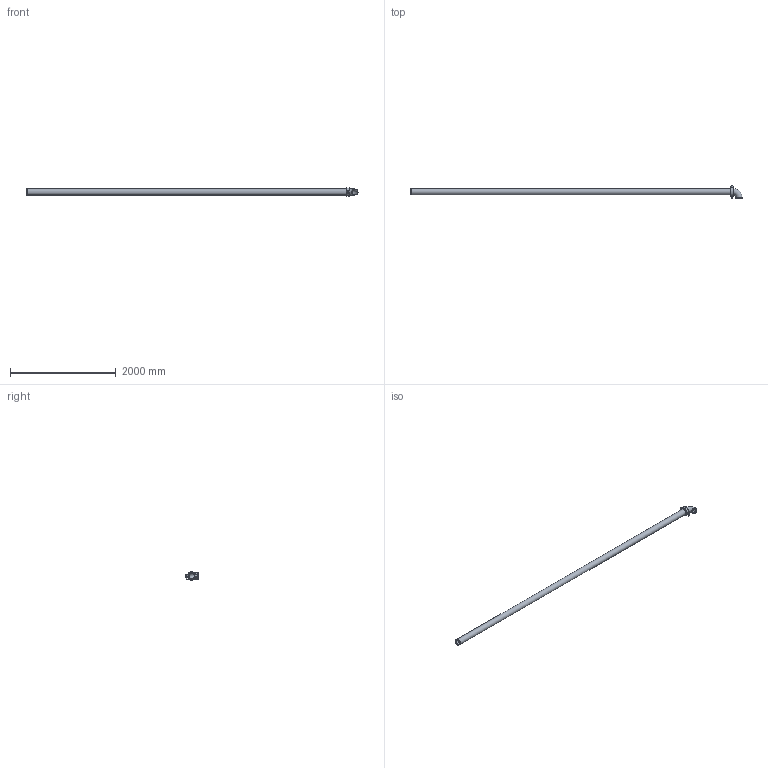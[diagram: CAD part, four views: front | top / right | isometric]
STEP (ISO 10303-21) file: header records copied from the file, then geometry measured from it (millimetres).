
FILE_DESCRIPTION(/* description */ ('VIC LONG RUN FITTING No R20 (OGS)','CAx-IF Rec.Pracs.---Representation and Presentation of Product Manufacturing Information (PMI)---4.0---2014-10-13'),/* implementation_level */ '2;1');
FILE_NAME(/* name */ 'C:\Users\Vjadhav\AppData\Roaming\Autodesk\ApplicationPlugins\Back Up\Victaulic_IPS_Long Run Fittings_No R20 (OGS)\Victaulic_IPS_Long Run Fittings_No R20 (OGS)_4 (100).stp',/* time_stamp */ '2020-10-06T19:45:50+05:00',/* author */ ('Vjadhav'),/* organization */ ('Victaulic'),/* preprocessor_version */ 'ST-DEVELOPER v17.2',/* originating_system */ 'Autodesk Inventor 2019',/* authorisation */ '');
FILE_SCHEMA (('AP242_MANAGED_MODEL_BASED_3D_ENGINEERING_MIM_LF { 1 0 10303 442 1 1 4 }'));
Length unit declared in the file: inch
Products named in the file (4): R20-04.0; 010-04.0; 177N-04.0; Pipe_R10-04.0
Assembly tree (3 placements, depth 2):
  R20-04.0
    010-04.0
    177N-04.0
    Pipe_R10-04.0
Bounding box: 6289.8 x 245.56 x 161.45 mm (x, y, z)
Volume: 13618875.7 mm3; surface area: 4399941 mm2
Topology: 3 solids, 3 shells, 117 faces, 305 edges, 206 vertices
Faces by surface type: plane 68, cylinder 37, torus 6, cone 4, sphere 2
Full cylindrical faces by diameter (mm): 15.875 x2, 23.495 x2, 101.6 x1, 102.26 x3, 110.084 x4, 114.3 x7
Entity records: 4268 total; most frequent: CARTESIAN_POINT 971, DIRECTION 661, ORIENTED_EDGE 618, EDGE_CURVE 309, AXIS2_PLACEMENT_3D 248, VERTEX_POINT 206, LINE 165, VECTOR 165
